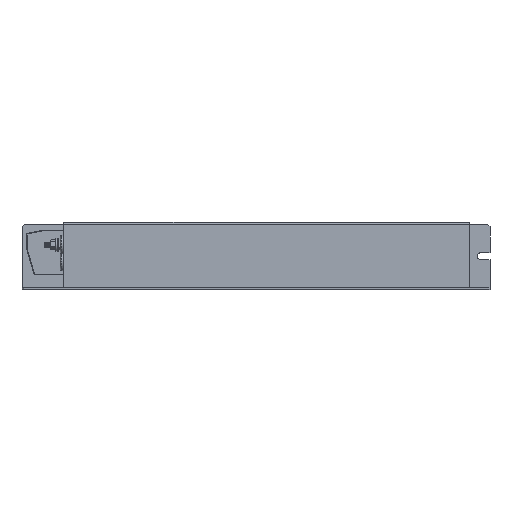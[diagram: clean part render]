
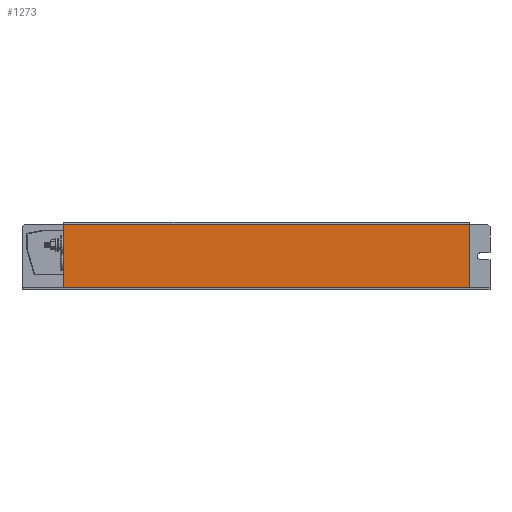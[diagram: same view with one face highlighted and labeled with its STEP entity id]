
A CAD part, top view. The second image highlights one B-rep face of the part: STEP entity #1273.
In plain terms, the highlighted planar face has unit normal (0, 0, 1).
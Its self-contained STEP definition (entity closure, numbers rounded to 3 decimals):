
#284 = VERTEX_POINT ( 'NONE', #2031 ) ;
#344 = CARTESIAN_POINT ( 'NONE',  ( 37., 1.5, 1.5 ) ) ;
#367 = VECTOR ( 'NONE', #3920, 1000. ) ;
#462 = ORIENTED_EDGE ( 'NONE', *, *, #8235, .T. ) ;
#477 = LINE ( 'NONE', #7210, #8266 ) ;
#695 = LINE ( 'NONE', #9008, #367 ) ;
#883 = VERTEX_POINT ( 'NONE', #5630 ) ;
#889 = CARTESIAN_POINT ( 'NONE',  ( 37., 60., 1.5 ) ) ;
#921 = PLANE ( 'NONE',  #5168 ) ;
#1038 = DIRECTION ( 'NONE',  ( -1., 0., 0. ) ) ;
#1100 = ORIENTED_EDGE ( 'NONE', *, *, #10163, .F. ) ;
#1273 = ADVANCED_FACE ( 'NONE', ( #7295 ), #921, .F. ) ;
#1328 = ORIENTED_EDGE ( 'NONE', *, *, #3312, .T. ) ;
#1767 = EDGE_LOOP ( 'NONE', ( #1100, #462, #1328, #4743 ) ) ;
#1795 = CARTESIAN_POINT ( 'NONE',  ( 37., 60., 1.5 ) ) ;
#2031 = CARTESIAN_POINT ( 'NONE',  ( 402., 1.5, 1.5 ) ) ;
#3312 = EDGE_CURVE ( 'NONE', #883, #4238, #6933, .T. ) ;
#3920 = DIRECTION ( 'NONE',  ( -1., 0., 0. ) ) ;
#4238 = VERTEX_POINT ( 'NONE', #7119 ) ;
#4283 = DIRECTION ( 'NONE',  ( 0., 0., -1. ) ) ;
#4743 = ORIENTED_EDGE ( 'NONE', *, *, #9485, .T. ) ;
#5168 = AXIS2_PLACEMENT_3D ( 'NONE', #889, #4283, #1038 ) ;
#5630 = CARTESIAN_POINT ( 'NONE',  ( 37., 58.5, 1.5 ) ) ;
#6051 = DIRECTION ( 'NONE',  ( 0., -1., 0. ) ) ;
#6626 = VECTOR ( 'NONE', #10729, 1000. ) ;
#6933 = LINE ( 'NONE', #1795, #10270 ) ;
#7119 = CARTESIAN_POINT ( 'NONE',  ( 37., 1.5, 1.5 ) ) ;
#7210 = CARTESIAN_POINT ( 'NONE',  ( 402., 60., 1.5 ) ) ;
#7295 = FACE_OUTER_BOUND ( 'NONE', #1767, .T. ) ;
#7570 = CARTESIAN_POINT ( 'NONE',  ( 402., 58.5, 1.5 ) ) ;
#8235 = EDGE_CURVE ( 'NONE', #9791, #883, #695, .T. ) ;
#8266 = VECTOR ( 'NONE', #9920, 1000. ) ;
#9008 = CARTESIAN_POINT ( 'NONE',  ( 37., 58.5, 1.5 ) ) ;
#9485 = EDGE_CURVE ( 'NONE', #4238, #284, #10495, .T. ) ;
#9791 = VERTEX_POINT ( 'NONE', #7570 ) ;
#9920 = DIRECTION ( 'NONE',  ( 0., -1., 0. ) ) ;
#10163 = EDGE_CURVE ( 'NONE', #9791, #284, #477, .T. ) ;
#10270 = VECTOR ( 'NONE', #6051, 1000. ) ;
#10495 = LINE ( 'NONE', #344, #6626 ) ;
#10729 = DIRECTION ( 'NONE',  ( 1., 0., 0. ) ) ;
